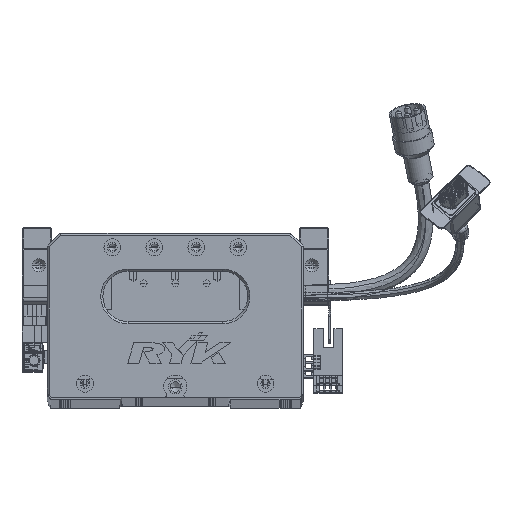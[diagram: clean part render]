
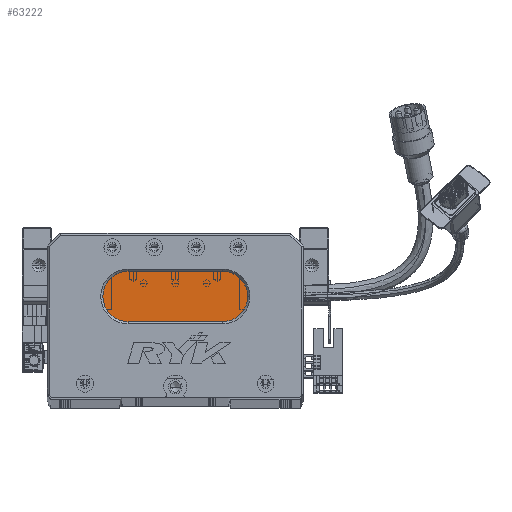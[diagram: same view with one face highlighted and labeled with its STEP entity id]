
A CAD part, top view. The second image highlights one B-rep face of the part: STEP entity #63222.
In plain terms, the highlighted planar face has unit normal (0, 0, 1) as drawn and (0, 0, -1) by its records, which use the part's own axes.
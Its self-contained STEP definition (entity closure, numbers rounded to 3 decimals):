
#406 = CARTESIAN_POINT ( 'NONE',  ( 83.5, 60., 13. ) ) ;
#5032 = ORIENTED_EDGE ( 'NONE', *, *, #78703, .T. ) ;
#8275 = DIRECTION ( 'NONE',  ( -1., 0., 0. ) ) ;
#14945 = EDGE_CURVE ( 'NONE', #107294, #24314, #111711, .T. ) ;
#16584 = DIRECTION ( 'NONE',  ( -1., 0., 0. ) ) ;
#16801 = EDGE_CURVE ( 'NONE', #24314, #53832, #94534, .T. ) ;
#17886 = DIRECTION ( 'NONE',  ( -1., 0., 0. ) ) ;
#19248 = EDGE_LOOP ( 'NONE', ( #35269, #5032, #87770, #93095, #82114 ) ) ;
#19449 = EDGE_CURVE ( 'NONE', #91463, #93090, #87786, .T. ) ;
#21460 = LINE ( 'NONE', #86461, #38743 ) ;
#24314 = VERTEX_POINT ( 'NONE', #406 ) ;
#24744 = CIRCLE ( 'NONE', #100476, 12. ) ;
#25547 = DIRECTION ( 'NONE',  ( 0., 0., -1. ) ) ;
#33318 = DIRECTION ( 'NONE',  ( -1., 0., 0. ) ) ;
#34268 = CARTESIAN_POINT ( 'NONE',  ( 83.5, 60., 13. ) ) ;
#35269 = ORIENTED_EDGE ( 'NONE', *, *, #16801, .T. ) ;
#38743 = VECTOR ( 'NONE', #78461, 1000. ) ;
#48959 = EDGE_CURVE ( 'NONE', #93090, #107294, #24744, .T. ) ;
#53022 = VECTOR ( 'NONE', #71134, 1000. ) ;
#53832 = VERTEX_POINT ( 'NONE', #114511 ) ;
#55451 = CARTESIAN_POINT ( 'NONE',  ( 38.5, 60., 13. ) ) ;
#56565 = DIRECTION ( 'NONE',  ( 0., 0., -1. ) ) ;
#57483 = AXIS2_PLACEMENT_3D ( 'NONE', #98956, #25547, #17886 ) ;
#58484 = CARTESIAN_POINT ( 'NONE',  ( 26.5, 48., 13. ) ) ;
#59882 = CARTESIAN_POINT ( 'NONE',  ( 83.5, 48., 13. ) ) ;
#63222 = ADVANCED_FACE ( 'NONE', ( #109572 ), #69811, .T. ) ;
#63328 = CARTESIAN_POINT ( 'NONE',  ( 83.5, 48., 13. ) ) ;
#69811 = PLANE ( 'NONE',  #76244 ) ;
#71134 = DIRECTION ( 'NONE',  ( 1., 0., 0. ) ) ;
#72317 = DIRECTION ( 'NONE',  ( 0., 0., -1. ) ) ;
#76244 = AXIS2_PLACEMENT_3D ( 'NONE', #59882, #116280, #33318 ) ;
#78461 = DIRECTION ( 'NONE',  ( -1., 0., 0. ) ) ;
#78703 = EDGE_CURVE ( 'NONE', #53832, #91463, #21460, .T. ) ;
#82114 = ORIENTED_EDGE ( 'NONE', *, *, #14945, .T. ) ;
#86427 = AXIS2_PLACEMENT_3D ( 'NONE', #63328, #56565, #8275 ) ;
#86461 = CARTESIAN_POINT ( 'NONE',  ( 83.5, 36., 13. ) ) ;
#87770 = ORIENTED_EDGE ( 'NONE', *, *, #19449, .T. ) ;
#87786 = CIRCLE ( 'NONE', #57483, 12. ) ;
#91463 = VERTEX_POINT ( 'NONE', #95115 ) ;
#91566 = CARTESIAN_POINT ( 'NONE',  ( 38.5, 48., 13. ) ) ;
#93090 = VERTEX_POINT ( 'NONE', #58484 ) ;
#93095 = ORIENTED_EDGE ( 'NONE', *, *, #48959, .T. ) ;
#94534 = CIRCLE ( 'NONE', #86427, 12. ) ;
#95115 = CARTESIAN_POINT ( 'NONE',  ( 38.5, 36., 13. ) ) ;
#98956 = CARTESIAN_POINT ( 'NONE',  ( 38.5, 48., 13. ) ) ;
#100476 = AXIS2_PLACEMENT_3D ( 'NONE', #91566, #72317, #16584 ) ;
#107294 = VERTEX_POINT ( 'NONE', #55451 ) ;
#109572 = FACE_OUTER_BOUND ( 'NONE', #19248, .T. ) ;
#111711 = LINE ( 'NONE', #34268, #53022 ) ;
#114511 = CARTESIAN_POINT ( 'NONE',  ( 83.5, 36., 13. ) ) ;
#116280 = DIRECTION ( 'NONE',  ( 0., 0., -1. ) ) ;
